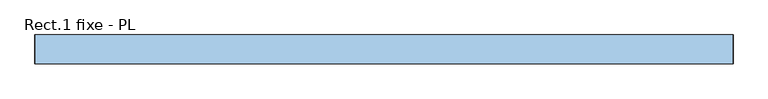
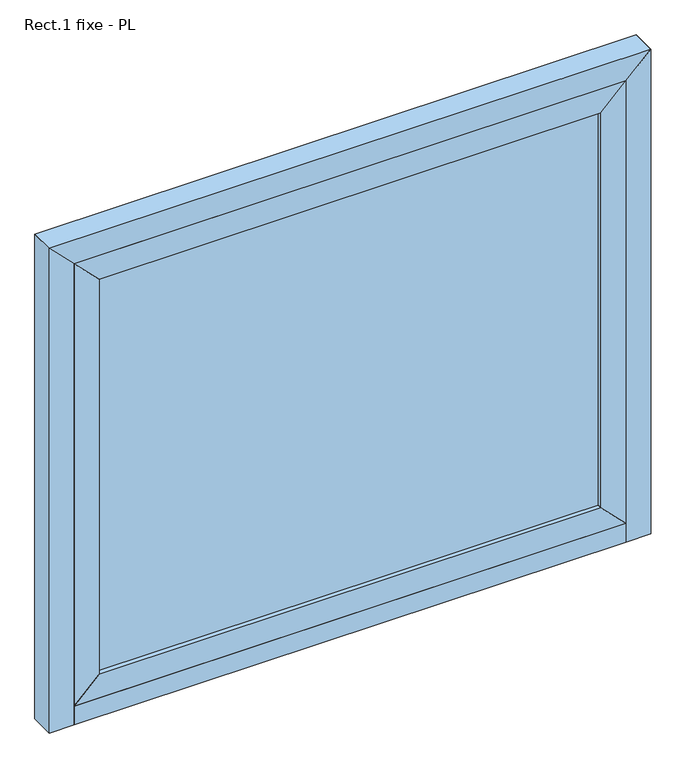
"""IFC4 building model written with IfcOpenShell, lengths in millimetres: window geometry, Rect.1 fixe - PL : 115*100."""

import ifcopenshell
import ifcopenshell.guid

model = None  # the IFC model being written
_history = None  # IfcOwnerHistory: only IFC2X3 demands one
_inside = {}  # id of a spatial element -> (the spatial element, [elements in it])
_under = {}  # id of a project, library or spatial element -> (it, [spatial elements below it])
_declared = {}  # id of a project -> (the project, [libraries it declares])
_typed = {}  # id of a type object -> (the type object, [elements of that type])
_made_of = {}  # id of a material, layer set ... -> (it, [elements and type objects made of it])


def new_model(schema):
    """Start an empty IFC model of exactly this schema.

    Asked for "IFC4X3", IfcOpenShell would pick the latest addendum, in which some entities
    have other attributes; the version numbers below select the first issue.
    IFC2X3 requires an IfcOwnerHistory on every rooted entity: one is made here for all.
    """
    global model, _history
    if schema == "IFC4X3":
        model = ifcopenshell.file(schema_version=(4, 3, 0, 0))
    else:
        model = ifcopenshell.file(schema=schema)
    _inside.clear()
    _under.clear()
    _declared.clear()
    _typed.clear()
    _made_of.clear()
    _history = None
    if model.schema == "IFC2X3":
        org = make("IfcOrganization", Name="unknown")
        user = make(
            "IfcPersonAndOrganization",
            ThePerson=make("IfcPerson", FamilyName="unknown"),
            TheOrganization=org,
        )
        app = make(
            "IfcApplication",
            ApplicationDeveloper=org,
            Version="unknown",
            ApplicationFullName="unknown",
            ApplicationIdentifier="unknown",
        )
        _history = make(
            "IfcOwnerHistory",
            OwningUser=user,
            OwningApplication=app,
            ChangeAction="ADDED",
            CreationDate=0,
        )
    return model


def make(cls, **values):
    """One entity of the class cls with the attributes given. An attribute that is None is left unset."""
    return model.create_entity(
        cls, **{name: value for name, value in values.items() if value is not None}
    )


def rooted(cls, **values):
    """An entity with a GlobalId (a new one), such as an element, a storey or a relation."""
    return make(cls, GlobalId=ifcopenshell.guid.new(), OwnerHistory=_history, **values)


def si_unit(unit_type, name, prefix=None):
    """IfcSIUnit, for example si_unit("LENGTHUNIT", "METRE", prefix="MILLI")."""
    return make("IfcSIUnit", UnitType=unit_type, Prefix=prefix, Name=name)


def assignment(units):
    """IfcUnitAssignment: the units of a project."""
    return None if units is None else make("IfcUnitAssignment", Units=units)


def point(xyz):
    """IfcCartesianPoint."""
    return None if xyz is None else make("IfcCartesianPoint", Coordinates=xyz)


def direction(xyz):
    """IfcDirection."""
    return None if xyz is None else make("IfcDirection", DirectionRatios=xyz)


def frame(location, z_axis=None, x_axis=None):
    """IfcAxis2Placement3D, a coordinate frame: its origin and axes. An axis left out is left unset."""
    return make(
        "IfcAxis2Placement3D",
        Location=point(location),
        Axis=direction(z_axis),
        RefDirection=direction(x_axis),
    )


def origin():
    """The frame at (0, 0, 0) with its axes left unset."""
    return frame((0.0, 0.0, 0.0))


def origin_with_axes():
    """The frame at (0, 0, 0) with the z axis (0, 0, 1) and the x axis (1, 0, 0) written out."""
    return frame((0.0, 0.0, 0.0), z_axis=(0.0, 0.0, 1.0), x_axis=(1.0, 0.0, 0.0))


def place(relative_to, where):
    """IfcLocalPlacement: puts the frame where relative to a parent placement (None: the world)."""
    return make(
        "IfcLocalPlacement", PlacementRelTo=relative_to, RelativePlacement=where
    )


def context(
    kind, dimensions, precision=None, world=None, true_north=None, identifier=None
):
    """IfcGeometricRepresentationContext, for example the 3D "Model" context."""
    return make(
        "IfcGeometricRepresentationContext",
        ContextIdentifier=identifier,
        ContextType=kind,
        CoordinateSpaceDimension=dimensions,
        Precision=precision,
        WorldCoordinateSystem=world,
        TrueNorth=true_north,
    )


def project(units=None, contexts=None):
    """IfcProject with its units and contexts."""
    return rooted(
        "IfcProject",
        Name="project",
        RepresentationContexts=contexts,
        UnitsInContext=assignment(units),
    )


def spatial(cls, under=None, at=None, **own):
    """A site, building, storey or space (cls), placed at a placement, below another one or the project."""
    s = rooted(cls, ObjectPlacement=at, **own)
    if under is not None:
        _under.setdefault(under.id(), (under, []))[1].append(s)
    return s


def polyline(points):
    """IfcPolyline through the points."""
    return make("IfcPolyline", Points=[point(p) for p in points])


def outline(outer, holes=None, kind="AREA"):
    """IfcArbitraryClosedProfileDef: a profile drawn as a closed curve; with holes, ...WithVoids."""
    if holes is None:
        return make("IfcArbitraryClosedProfileDef", ProfileType=kind, OuterCurve=outer)
    return make(
        "IfcArbitraryProfileDefWithVoids",
        ProfileType=kind,
        OuterCurve=outer,
        InnerCurves=holes,
    )


def extrude(swept, where, along, depth):
    """IfcExtrudedAreaSolid: the profile swept, set in the frame where, extruded along a direction by depth."""
    return make(
        "IfcExtrudedAreaSolid",
        SweptArea=swept,
        Position=where,
        ExtrudedDirection=direction(along),
        Depth=depth,
    )


def shape(context_of_items, identifier, shape_type, items):
    """IfcShapeRepresentation: the items that make up one representation, for example the "Body"."""
    return make(
        "IfcShapeRepresentation",
        ContextOfItems=context_of_items,
        RepresentationIdentifier=identifier,
        RepresentationType=shape_type,
        Items=items,
    )


def source(mapping_origin, context_of_items, identifier, shape_type, items):
    """IfcRepresentationMap: a shape defined once, which mapped items show again and again."""
    return make(
        "IfcRepresentationMap",
        MappingOrigin=mapping_origin,
        MappedRepresentation=shape(context_of_items, identifier, shape_type, items),
    )


def transform(
    local_origin,
    x_axis=None,
    y_axis=None,
    z_axis=None,
    scale=None,
    scale2=None,
    scale3=None,
    uniform=True,
):
    """IfcCartesianTransformationOperator3D, or its non-uniform kind. x_axis, y_axis, z_axis: its Axis1, 2, 3."""
    if uniform:
        return make(
            "IfcCartesianTransformationOperator3D",
            Axis1=direction(x_axis),
            Axis2=direction(y_axis),
            LocalOrigin=point(local_origin),
            Scale=scale,
            Axis3=direction(z_axis),
        )
    return make(
        "IfcCartesianTransformationOperator3DnonUniform",
        Axis1=direction(x_axis),
        Axis2=direction(y_axis),
        LocalOrigin=point(local_origin),
        Scale=scale,
        Axis3=direction(z_axis),
        Scale2=scale2,
        Scale3=scale3,
    )


def mapped(mapping_source, mapping_target):
    """IfcMappedItem: shows the shape of a source again, moved by a transform."""
    return make(
        "IfcMappedItem", MappingSource=mapping_source, MappingTarget=mapping_target
    )


def made_of(thing, what):
    """Note that an element or type object is made of a material, layer set ...; save() writes the relation."""
    if what is not None:
        _made_of.setdefault(what.id(), (what, []))[1].append(thing)
    return thing


def element(
    cls,
    number,
    at=None,
    inside=None,
    cuts=None,
    type_object=None,
    material=None,
    context=None,
    identifier="Body",
    shape_type=None,
    held_by="IfcProductDefinitionShape",
    body=None,
    shapes=None,
    **own,
):
    """One element of the class cls, such as IfcWall. Its Tag is "e" and its number.

    at: its placement. inside: the storey or other place that contains it. cuts: it is an
    opening in that element (IfcRelVoidsElement). A single representation is given by context,
    identifier, shape_type and body (its items); several are given by shapes. held_by: the class
    of the entity that holds the representations. save() writes the other relations.
    """
    e = rooted(cls, Tag="e%d" % number, ObjectPlacement=at, **own)
    if body is not None:
        shapes = [shape(context, identifier, shape_type, body)]
    if shapes is not None:
        e.Representation = make(held_by, Representations=shapes)
    if inside is not None:
        _inside.setdefault(inside.id(), (inside, []))[1].append(e)
    if cuts is not None:
        rooted(
            "IfcRelVoidsElement", RelatingBuildingElement=cuts, RelatedOpeningElement=e
        )
    if type_object is not None:
        _typed.setdefault(type_object.id(), (type_object, []))[1].append(e)
    return made_of(e, material)


def aggregate(whole, parts):
    """IfcRelAggregates: a whole, such as a stair, and the parts it consists of."""
    return rooted("IfcRelAggregates", RelatingObject=whole, RelatedObjects=parts)


def save(model, path):
    """Write the relations noted so far, then the file.

    IfcRelAggregates (storeys below a building ...), IfcRelContainedInSpatialStructure (elements
    in a storey), IfcRelDefinesByType, IfcRelAssociatesMaterial and IfcRelDeclares: one each for
    every whole, place, type object, material and project.
    """
    for whole, parts in _under.values():
        aggregate(whole, parts)
    for where, things in _inside.values():
        rooted(
            "IfcRelContainedInSpatialStructure",
            RelatedElements=things,
            RelatingStructure=where,
        )
    for kind, things in _typed.values():
        rooted("IfcRelDefinesByType", RelatedObjects=things, RelatingType=kind)
    for what, things in _made_of.values():
        rooted("IfcRelAssociatesMaterial", RelatedObjects=things, RelatingMaterial=what)
    for by, libraries in _declared.values():
        rooted("IfcRelDeclares", RelatingContext=by, RelatedDefinitions=libraries)
    model.write(path)


def rect_1_fixe_pl_091b04ed(model_context):
    return source(origin(), model_context, "Body", "SweptSolid", [
        extrude(outline(polyline([(505.0, 10.0), (-505.0, 10.0), (-505.0, 30.0), (505.0, 30.0), (505.0, 10.0)])), frame((0.0, 0.0, 90.0), z_axis=(0.0, 0.0, 1.0), x_axis=(1.0, 0.0, 0.0)), (0.0, 0.0, 1.0), 840.0),
        extrude(outline(polyline([(40.0, 555.0), (90.0, 505.0), (90.0, -505.0), (40.0, -555.0), (40.0, 555.0)])), frame((0.0, 0.0, 0.0), z_axis=(0.0, 1.0, 0.0), x_axis=(0.0, 0.0, 1.0)), (0.0, 0.0, 1.0), 40.0),
        extrude(outline(polyline([(40.0, -555.0), (90.0, -505.0), (930.0, -505.0), (980.0, -555.0), (40.0, -555.0)])), frame((0.0, 0.0, 0.0), z_axis=(0.0, 1.0, 0.0), x_axis=(0.0, 0.0, 1.0)), (0.0, 0.0, 1.0), 40.0),
        extrude(outline(polyline([(90.0, 505.0), (40.0, 555.0), (980.0, 555.0), (930.0, 505.0), (90.0, 505.0)])), frame((0.0, 0.0, 0.0), z_axis=(0.0, 1.0, 0.0), x_axis=(0.0, 0.0, 1.0)), (0.0, 0.0, 1.0), 40.0),
        extrude(outline(polyline([(980.0, 555.0), (980.0, -555.0), (930.0, -505.0), (930.0, 505.0), (980.0, 555.0)])), frame((0.0, 0.0, 0.0), z_axis=(0.0, 1.0, 0.0), x_axis=(0.0, 0.0, 1.0)), (0.0, 0.0, 1.0), 40.0),
        extrude(outline(polyline([(1010.0, 585.0), (1000.0, 575.0), (0.0, 575.0), (0.0, 585.0), (1010.0, 585.0)])), frame((0.0, 10.0, 0.0), z_axis=(0.0, 1.0, 0.0), x_axis=(0.0, 0.0, 1.0)), (0.0, 0.0, 1.0), 40.0),
        extrude(outline(polyline([(1010.0, -585.0), (0.0, -585.0), (0.0, -575.0), (1000.0, -575.0), (1010.0, -585.0)])), frame((0.0, 10.0, 0.0), z_axis=(0.0, 1.0, 0.0), x_axis=(0.0, 0.0, 1.0)), (0.0, 0.0, 1.0), 40.0),
        extrude(outline(polyline([(555.0, 50.0), (555.0, 0.0), (-555.0, 0.0), (-555.0, 50.0), (555.0, 50.0)])), origin_with_axes(), (0.0, 0.0, 1.0), 40.0),
        extrude(outline(polyline([(0.0, -605.0), (0.0, -555.0), (980.0, -555.0), (1030.0, -605.0), (0.0, -605.0)])), frame((0.0, 0.0, 0.0), z_axis=(0.0, 1.0, 0.0), x_axis=(0.0, 0.0, 1.0)), (0.0, 0.0, 1.0), 50.0),
        extrude(outline(polyline([(0.0, 605.0), (1030.0, 605.0), (980.0, 555.0), (0.0, 555.0), (0.0, 605.0)])), frame((0.0, 0.0, 0.0), z_axis=(0.0, 1.0, 0.0), x_axis=(0.0, 0.0, 1.0)), (0.0, 0.0, 1.0), 50.0),
        extrude(outline(polyline([(20.0, 30.0), (50.0, 40.0), (50.0, 0.0), (20.0, 0.0), (20.0, 30.0)])), frame((-575.0, 0.0, 0.0), z_axis=(1.0, 0.0, 0.0), x_axis=(0.0, 1.0, 0.0)), (0.0, 0.0, 1.0), 1150.0),
        extrude(outline(polyline([(1010.0, -585.0), (1000.0, -575.0), (1000.0, 575.0), (1010.0, 585.0), (1010.0, -585.0)])), frame((0.0, 10.0, 0.0), z_axis=(0.0, 1.0, 0.0), x_axis=(0.0, 0.0, 1.0)), (0.0, 0.0, 1.0), 40.0),
        extrude(outline(polyline([(1030.0, 605.0), (1030.0, -605.0), (980.0, -555.0), (980.0, 555.0), (1030.0, 605.0)])), frame((0.0, 0.0, 0.0), z_axis=(0.0, 1.0, 0.0), x_axis=(0.0, 0.0, 1.0)), (0.0, 0.0, 1.0), 50.0),
    ])


if __name__ == "__main__":
    model = new_model("IFC4")
    model_context = context("Model", 3, world=origin())
    ifc_project = project(units=[si_unit("LENGTHUNIT", "METRE", prefix="MILLI")], contexts=[model_context])
    site = spatial("IfcSite", under=ifc_project)
    building = spatial("IfcBuilding", under=site)
    placement = place(None, origin())
    rect_1_fixe_pl_shape = rect_1_fixe_pl_091b04ed(model_context)
    element("IfcWindow", 1, ObjectType="Rect.1 fixe - PL : 115*100", at=placement, inside=building, context=model_context, shape_type="MappedRepresentation", body=[
        mapped(rect_1_fixe_pl_shape, transform((0.0, 0.0, 0.0), x_axis=(1.0, 0.0, 0.0), y_axis=(0.0, 1.0, 0.0), z_axis=(0.0, 0.0, 1.0))),
    ])
    save(model, "model.ifc")
